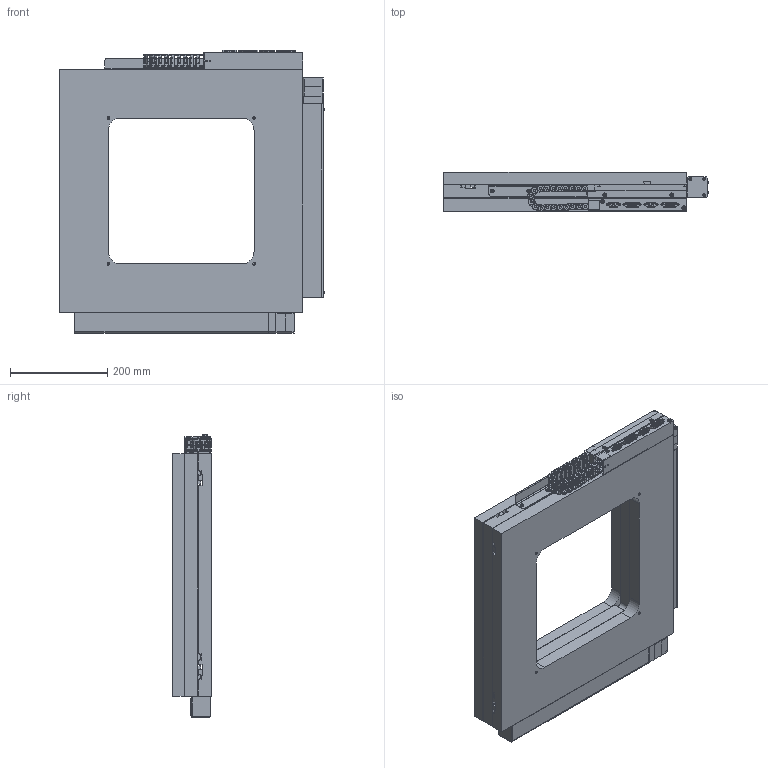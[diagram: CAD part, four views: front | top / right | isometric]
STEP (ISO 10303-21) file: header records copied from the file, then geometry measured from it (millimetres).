
FILE_DESCRIPTION (( 'STEP AP214' ), '1' );
FILE_NAME ('OXY-150-Rotary Encoder-EXPORT.STEP', '2026-05-13T17:41:32', ( 'lab' ), ( '' ), 'SwSTEP 2.0', 'SolidWorks 2018', '' );
FILE_SCHEMA (( 'AUTOMOTIVE_DESIGN' ));
Length unit declared in the file: millimetre
Products named in the file (13): 1000001_file_export2; 1000012_file_export42; 1000010_file_export28; 1000011_file_export43; 1000009_file_export29; 1000004_file_export6; 1000008_file_export17; 1000005_file_export7; 1000007_file_export32; 1000006_file_export9; OXY-150-Rotary Encoder-EXPORT; 1000002_file_export4; 1000003_file_export3
Assembly tree (44 placements, depth 2):
  OXY-150-Rotary Encoder-EXPORT
    1000001_file_export2
    1000002_file_export4
    1000003_file_export3
    1000004_file_export6  x2
    1000005_file_export7  x2
    1000006_file_export9  x2
    1000007_file_export32  x8
    1000008_file_export17
    1000009_file_export29  x4
    1000010_file_export28
    1000011_file_export43  x19
    1000012_file_export42  x2
Bounding box: 544.5 x 80 x 584.7 mm (x, y, z)
Volume: 14099752 mm3; surface area: 1821773.4 mm2
Topology: 163 solids, 163 shells, 4921 faces, 12425 edges, 7940 vertices
Faces by surface type: plane 2770, cylinder 1497, bspline 340, cone 278, torus 20, sphere 16
Entity records: 77608 total; most frequent: CARTESIAN_POINT 17398, DIRECTION 10717, ORIENTED_EDGE 10436, EDGE_CURVE 5218, AXIS2_PLACEMENT_3D 3687, VECTOR 3343, LINE 3343, VERTEX_POINT 3326
